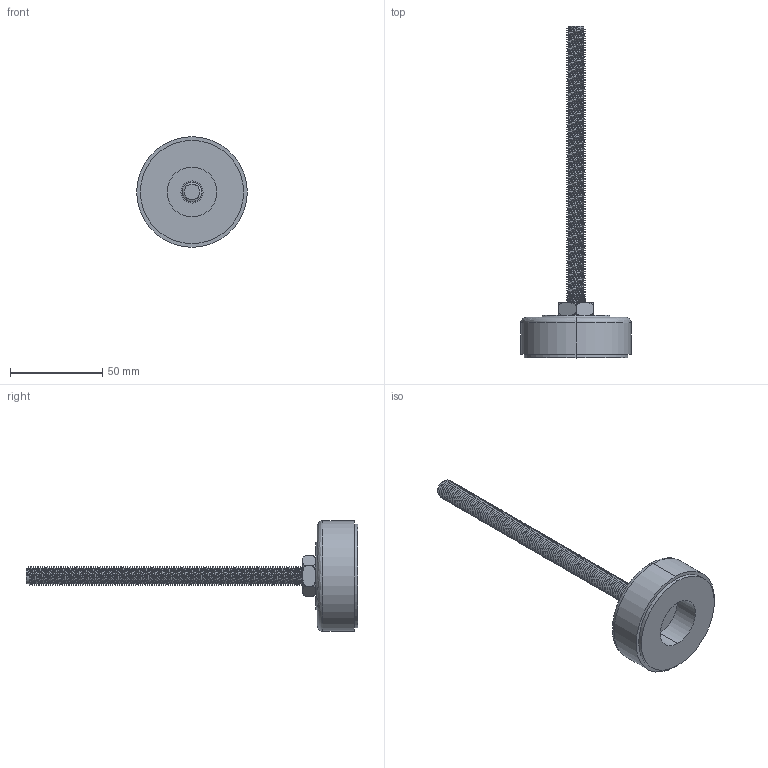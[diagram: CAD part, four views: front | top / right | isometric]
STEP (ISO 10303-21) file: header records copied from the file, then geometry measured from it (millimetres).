
FILE_DESCRIPTION (( 'STEP AP203' ), '1' );
FILE_NAME ('DY-D6012150S.STEP', '2022-03-08T03:27:35', ( '' ), ( '' ), 'SwSTEP 2.0', 'SolidWorks 2017', '' );
FILE_SCHEMA (( 'CONFIG_CONTROL_DESIGN' ));
Length unit declared in the file: millimetre
Products named in the file (3): DY-D6012150S; 底座BS60; 螺桿M12XL150XP1.75
Assembly tree (2 placements, depth 2):
  DY-D6012150S
    底座BS60
    螺桿M12XL150XP1.75
Bounding box: 60 x 180 x 60 mm (x, y, z)
Volume: 66073.4 mm3; surface area: 21491.3 mm2
Topology: 2 solids, 2 shells, 291 faces, 840 edges, 558 vertices
Faces by surface type: cylinder 261, plane 18, bspline 10, cone 2
Entity records: 20493 total; most frequent: CARTESIAN_POINT 14109, ORIENTED_EDGE 1680, DIRECTION 916, EDGE_CURVE 840, VERTEX_POINT 558, AXIS2_PLACEMENT_3D 320, EDGE_LOOP 298, FACE_OUTER_BOUND 291
